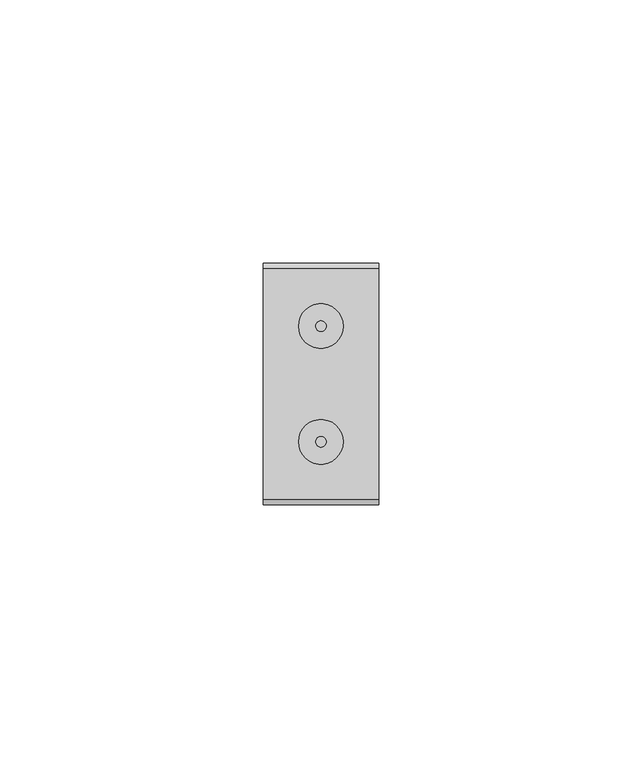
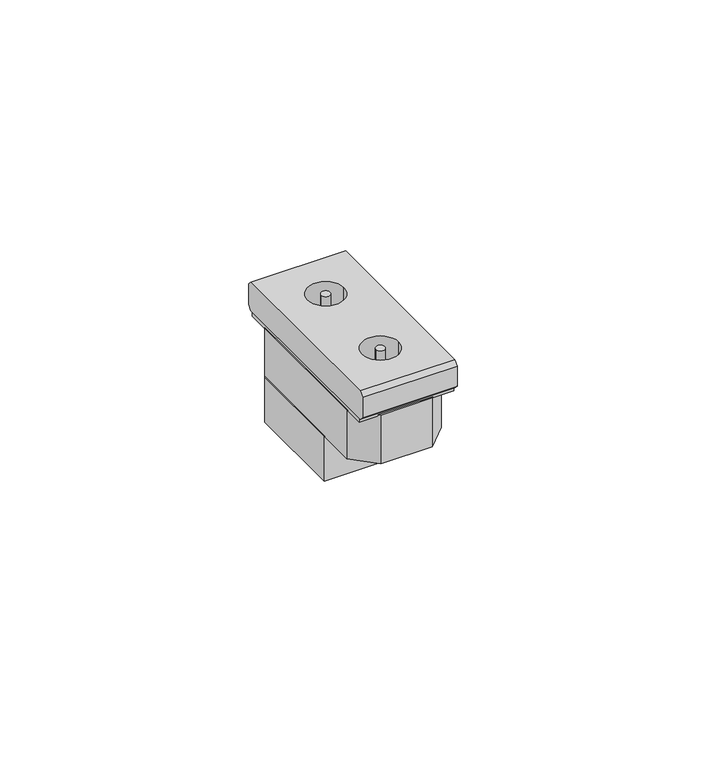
"""IFC4 building model written with IfcOpenShell, lengths in millimetres: proxy geometry, L4214D LL Presa TV-SAT : L4214D LL Presa TV-SAT."""

import ifcopenshell
import ifcopenshell.guid

model = None  # the IFC model being written
_history = None  # IfcOwnerHistory: only IFC2X3 demands one
_inside = {}  # id of a spatial element -> (the spatial element, [elements in it])
_under = {}  # id of a project, library or spatial element -> (it, [spatial elements below it])
_declared = {}  # id of a project -> (the project, [libraries it declares])
_typed = {}  # id of a type object -> (the type object, [elements of that type])
_made_of = {}  # id of a material, layer set ... -> (it, [elements and type objects made of it])


def new_model(schema):
    """Start an empty IFC model of exactly this schema.

    Asked for "IFC4X3", IfcOpenShell would pick the latest addendum, in which some entities
    have other attributes; the version numbers below select the first issue.
    IFC2X3 requires an IfcOwnerHistory on every rooted entity: one is made here for all.
    """
    global model, _history
    if schema == "IFC4X3":
        model = ifcopenshell.file(schema_version=(4, 3, 0, 0))
    else:
        model = ifcopenshell.file(schema=schema)
    _inside.clear()
    _under.clear()
    _declared.clear()
    _typed.clear()
    _made_of.clear()
    _history = None
    if model.schema == "IFC2X3":
        org = make("IfcOrganization", Name="unknown")
        user = make(
            "IfcPersonAndOrganization",
            ThePerson=make("IfcPerson", FamilyName="unknown"),
            TheOrganization=org,
        )
        app = make(
            "IfcApplication",
            ApplicationDeveloper=org,
            Version="unknown",
            ApplicationFullName="unknown",
            ApplicationIdentifier="unknown",
        )
        _history = make(
            "IfcOwnerHistory",
            OwningUser=user,
            OwningApplication=app,
            ChangeAction="ADDED",
            CreationDate=0,
        )
    return model


def make(cls, **values):
    """One entity of the class cls with the attributes given. An attribute that is None is left unset."""
    return model.create_entity(
        cls, **{name: value for name, value in values.items() if value is not None}
    )


def rooted(cls, **values):
    """An entity with a GlobalId (a new one), such as an element, a storey or a relation."""
    return make(cls, GlobalId=ifcopenshell.guid.new(), OwnerHistory=_history, **values)


def si_unit(unit_type, name, prefix=None):
    """IfcSIUnit, for example si_unit("LENGTHUNIT", "METRE", prefix="MILLI")."""
    return make("IfcSIUnit", UnitType=unit_type, Prefix=prefix, Name=name)


def assignment(units):
    """IfcUnitAssignment: the units of a project."""
    return None if units is None else make("IfcUnitAssignment", Units=units)


def point(xyz):
    """IfcCartesianPoint."""
    return None if xyz is None else make("IfcCartesianPoint", Coordinates=xyz)


def direction(xyz):
    """IfcDirection."""
    return None if xyz is None else make("IfcDirection", DirectionRatios=xyz)


def frame(location, z_axis=None, x_axis=None):
    """IfcAxis2Placement3D, a coordinate frame: its origin and axes. An axis left out is left unset."""
    return make(
        "IfcAxis2Placement3D",
        Location=point(location),
        Axis=direction(z_axis),
        RefDirection=direction(x_axis),
    )


def frame_2d(location, x_axis=None):
    """IfcAxis2Placement2D, a coordinate frame in the plane: its origin and x axis."""
    return make(
        "IfcAxis2Placement2D", Location=point(location), RefDirection=direction(x_axis)
    )


def origin():
    """The frame at (0, 0, 0) with its axes left unset."""
    return frame((0.0, 0.0, 0.0))


def origin_with_axes():
    """The frame at (0, 0, 0) with the z axis (0, 0, 1) and the x axis (1, 0, 0) written out."""
    return frame((0.0, 0.0, 0.0), z_axis=(0.0, 0.0, 1.0), x_axis=(1.0, 0.0, 0.0))


def place(relative_to, where):
    """IfcLocalPlacement: puts the frame where relative to a parent placement (None: the world)."""
    return make(
        "IfcLocalPlacement", PlacementRelTo=relative_to, RelativePlacement=where
    )


def context(
    kind, dimensions, precision=None, world=None, true_north=None, identifier=None
):
    """IfcGeometricRepresentationContext, for example the 3D "Model" context."""
    return make(
        "IfcGeometricRepresentationContext",
        ContextIdentifier=identifier,
        ContextType=kind,
        CoordinateSpaceDimension=dimensions,
        Precision=precision,
        WorldCoordinateSystem=world,
        TrueNorth=true_north,
    )


def project(units=None, contexts=None):
    """IfcProject with its units and contexts."""
    return rooted(
        "IfcProject",
        Name="project",
        RepresentationContexts=contexts,
        UnitsInContext=assignment(units),
    )


def spatial(cls, under=None, at=None, **own):
    """A site, building, storey or space (cls), placed at a placement, below another one or the project."""
    s = rooted(cls, ObjectPlacement=at, **own)
    if under is not None:
        _under.setdefault(under.id(), (under, []))[1].append(s)
    return s


def polyline(points):
    """IfcPolyline through the points."""
    return make("IfcPolyline", Points=[point(p) for p in points])


def circle_curve(where, radius):
    """IfcCircle in the frame where."""
    return make("IfcCircle", Position=where, Radius=radius)


def trimmed(basis, trim1, trim2, sense, master):
    """IfcTrimmedCurve: the piece of a basis curve between two trims."""
    return make(
        "IfcTrimmedCurve",
        BasisCurve=basis,
        Trim1=trim1,
        Trim2=trim2,
        SenseAgreement=sense,
        MasterRepresentation=master,
    )


def segment(curve, same_sense, transition):
    """IfcCompositeCurveSegment."""
    return make(
        "IfcCompositeCurveSegment",
        Transition=transition,
        SameSense=same_sense,
        ParentCurve=curve,
    )


def composite_curve(segments, self_intersect=None):
    """IfcCompositeCurve: segments joined end to end."""
    return make("IfcCompositeCurve", Segments=segments, SelfIntersect=self_intersect)


def outline(outer, holes=None, kind="AREA"):
    """IfcArbitraryClosedProfileDef: a profile drawn as a closed curve; with holes, ...WithVoids."""
    if holes is None:
        return make("IfcArbitraryClosedProfileDef", ProfileType=kind, OuterCurve=outer)
    return make(
        "IfcArbitraryProfileDefWithVoids",
        ProfileType=kind,
        OuterCurve=outer,
        InnerCurves=holes,
    )


def extrude(swept, where, along, depth):
    """IfcExtrudedAreaSolid: the profile swept, set in the frame where, extruded along a direction by depth."""
    return make(
        "IfcExtrudedAreaSolid",
        SweptArea=swept,
        Position=where,
        ExtrudedDirection=direction(along),
        Depth=depth,
    )


def shape(context_of_items, identifier, shape_type, items):
    """IfcShapeRepresentation: the items that make up one representation, for example the "Body"."""
    return make(
        "IfcShapeRepresentation",
        ContextOfItems=context_of_items,
        RepresentationIdentifier=identifier,
        RepresentationType=shape_type,
        Items=items,
    )


def source(mapping_origin, context_of_items, identifier, shape_type, items):
    """IfcRepresentationMap: a shape defined once, which mapped items show again and again."""
    return make(
        "IfcRepresentationMap",
        MappingOrigin=mapping_origin,
        MappedRepresentation=shape(context_of_items, identifier, shape_type, items),
    )


def transform(
    local_origin,
    x_axis=None,
    y_axis=None,
    z_axis=None,
    scale=None,
    scale2=None,
    scale3=None,
    uniform=True,
):
    """IfcCartesianTransformationOperator3D, or its non-uniform kind. x_axis, y_axis, z_axis: its Axis1, 2, 3."""
    if uniform:
        return make(
            "IfcCartesianTransformationOperator3D",
            Axis1=direction(x_axis),
            Axis2=direction(y_axis),
            LocalOrigin=point(local_origin),
            Scale=scale,
            Axis3=direction(z_axis),
        )
    return make(
        "IfcCartesianTransformationOperator3DnonUniform",
        Axis1=direction(x_axis),
        Axis2=direction(y_axis),
        LocalOrigin=point(local_origin),
        Scale=scale,
        Axis3=direction(z_axis),
        Scale2=scale2,
        Scale3=scale3,
    )


def mapped(mapping_source, mapping_target):
    """IfcMappedItem: shows the shape of a source again, moved by a transform."""
    return make(
        "IfcMappedItem", MappingSource=mapping_source, MappingTarget=mapping_target
    )


def made_of(thing, what):
    """Note that an element or type object is made of a material, layer set ...; save() writes the relation."""
    if what is not None:
        _made_of.setdefault(what.id(), (what, []))[1].append(thing)
    return thing


def element(
    cls,
    number,
    at=None,
    inside=None,
    cuts=None,
    type_object=None,
    material=None,
    context=None,
    identifier="Body",
    shape_type=None,
    held_by="IfcProductDefinitionShape",
    body=None,
    shapes=None,
    **own,
):
    """One element of the class cls, such as IfcWall. Its Tag is "e" and its number.

    at: its placement. inside: the storey or other place that contains it. cuts: it is an
    opening in that element (IfcRelVoidsElement). A single representation is given by context,
    identifier, shape_type and body (its items); several are given by shapes. held_by: the class
    of the entity that holds the representations. save() writes the other relations.
    """
    e = rooted(cls, Tag="e%d" % number, ObjectPlacement=at, **own)
    if body is not None:
        shapes = [shape(context, identifier, shape_type, body)]
    if shapes is not None:
        e.Representation = make(held_by, Representations=shapes)
    if inside is not None:
        _inside.setdefault(inside.id(), (inside, []))[1].append(e)
    if cuts is not None:
        rooted(
            "IfcRelVoidsElement", RelatingBuildingElement=cuts, RelatedOpeningElement=e
        )
    if type_object is not None:
        _typed.setdefault(type_object.id(), (type_object, []))[1].append(e)
    return made_of(e, material)


def aggregate(whole, parts):
    """IfcRelAggregates: a whole, such as a stair, and the parts it consists of."""
    return rooted("IfcRelAggregates", RelatingObject=whole, RelatedObjects=parts)


def save(model, path):
    """Write the relations noted so far, then the file.

    IfcRelAggregates (storeys below a building ...), IfcRelContainedInSpatialStructure (elements
    in a storey), IfcRelDefinesByType, IfcRelAssociatesMaterial and IfcRelDeclares: one each for
    every whole, place, type object, material and project.
    """
    for whole, parts in _under.values():
        aggregate(whole, parts)
    for where, things in _inside.values():
        rooted(
            "IfcRelContainedInSpatialStructure",
            RelatedElements=things,
            RelatingStructure=where,
        )
    for kind, things in _typed.values():
        rooted("IfcRelDefinesByType", RelatedObjects=things, RelatingType=kind)
    for what, things in _made_of.values():
        rooted("IfcRelAssociatesMaterial", RelatedObjects=things, RelatingMaterial=what)
    for by, libraries in _declared.values():
        rooted("IfcRelDeclares", RelatingContext=by, RelatedDefinitions=libraries)
    model.write(path)


def plane_surface(at):
    """IfcPlane: the flat surface through the origin of the frame at, square to its z axis."""
    return make("IfcPlane", Position=at)


def revolved_surface(curve, axis_point, axis_direction):
    """IfcSurfaceOfRevolution: the curve turned about the line through axis_point along axis_direction."""
    return make(
        "IfcSurfaceOfRevolution",
        SweptCurve=make("IfcArbitraryOpenProfileDef", ProfileType="CURVE", Curve=curve),
        AxisPosition=make("IfcAxis1Placement", Location=point(axis_point), Axis=direction(axis_direction)),
    )


def advanced_brep(points, edges, surfaces, faces):
    """IfcAdvancedBrep: a solid bounded by faces that lie on surfaces and meet in shared edges.

    An edge is (start, end): straight between two places in points (the first is 0);
    or (start, end, curve); or (start, end, curve, False) where it runs against its curve.
    A face is (place in surfaces, loops), or (place, loops, False) where it looks against
    its surface's normal. A loop lists edges by number (the first is 1), with a minus sign
    where the edge is run from its end to its start. The first loop is the outer one.
    """
    corners = [point(p) for p in points]
    vertices = [make("IfcVertexPoint", VertexGeometry=c) for c in corners]
    made = []
    for start, end, *more in edges:
        made.append(
            make(
                "IfcEdgeCurve",
                EdgeStart=vertices[start],
                EdgeEnd=vertices[end],
                EdgeGeometry=more[0] if more else make("IfcPolyline", Points=[corners[start], corners[end]]),
                SameSense=more[1] if len(more) > 1 else True,
            )
        )
    hull = []
    for where, loops, *sense in faces:
        bounds = []
        for j, loop in enumerate(loops):
            ring = [make("IfcOrientedEdge", EdgeElement=made[abs(k) - 1], Orientation=k > 0) for k in loop]
            bounds.append(
                make(
                    "IfcFaceOuterBound" if j == 0 else "IfcFaceBound",
                    Bound=make("IfcEdgeLoop", EdgeList=ring),
                    Orientation=True,
                )
            )
        hull.append(make("IfcAdvancedFace", Bounds=bounds, FaceSurface=surfaces[where], SameSense=sense[0] if sense else True))
    return make("IfcAdvancedBrep", Outer=make("IfcClosedShell", CfsFaces=hull))


def electrical_fixtures_3d832e5a(model_context):
    return source(origin(), model_context, "Body", "SolidModel", [
        extrude(outline(composite_curve([segment(trimmed(circle_curve(frame_2d((0.0, 11.0)), 1.0), [point((-1.0, 11.0))], [point((1.0, 11.0))], False, "CARTESIAN"), True, "CONTINUOUS"), segment(trimmed(circle_curve(frame_2d((0.0, 11.0)), 1.0), [point((1.0, 11.0))], [point((-1.0, 11.0))], False, "CARTESIAN"), True, "CONTINUOUS")], self_intersect=False)), frame((0.0, 0.0, 1.0), z_axis=(0.0, 0.0, 1.0), x_axis=(1.0, 0.0, 0.0)), (0.0, 0.0, 1.0), 6.979899),
        extrude(outline(composite_curve([segment(trimmed(circle_curve(frame_2d((0.0, -11.0)), 1.0), [point((-1.0, -11.0))], [point((1.0, -11.0))], False, "CARTESIAN"), True, "CONTINUOUS"), segment(trimmed(circle_curve(frame_2d((0.0, -11.0)), 1.0), [point((1.0, -11.0))], [point((-1.0, -11.0))], False, "CARTESIAN"), True, "CONTINUOUS")], self_intersect=False)), frame((0.0, 0.0, 1.0), z_axis=(0.0, 0.0, 1.0), x_axis=(1.0, 0.0, 0.0)), (0.0, 0.0, 1.0), 6.979899),
        advanced_brep(
        [(11.0, -22.0, 1.0), (11.0, 22.0, 1.0), (11.0, 22.9899495, 1.9899495), (11.0, 22.9899495, 6.9899495), (11.0, 22.0, 7.979899), (11.0, -22.0, 7.979899), (11.0, -22.9899495, 6.9899495), (11.0, -22.9899495, 1.9899495), (-11.0, -22.0, 1.0), (-11.0, -22.9899495, 1.9899495), (-11.0, -22.9899495, 6.9899495), (-11.0, -22.0, 7.979899), (-11.0, 22.0, 7.979899), (-11.0, 22.9899495, 6.9899495), (-11.0, 22.9899495, 1.9899495), (-11.0, 22.0, 1.0), (-4.25, 11.0, 1.0), (4.25, 11.0, 1.0), (-4.25, -11.0, 1.0), (4.25, -11.0, 1.0), (4.25, 11.0, 7.979899), (-4.25, 11.0, 7.979899), (4.25, -11.0, 7.979899), (-4.25, -11.0, 7.979899)],
        [
            (0, 1),
            (1, 2),
            (2, 3),
            (3, 4),
            (4, 5),
            (5, 6),
            (6, 7),
            (7, 0),
            (8, 9),
            (9, 10),
            (10, 11),
            (11, 12),
            (12, 13),
            (13, 14),
            (14, 15),
            (15, 8),
            (0, 8),
            (15, 1),
            (16, 17, circle_curve(frame((0.0, 11.0, 1.0), z_axis=(0.0, 0.0, 1.0), x_axis=(1.0, 0.0, 0.0)), 4.25)),
            (17, 16, circle_curve(frame((0.0, 11.0, 1.0), z_axis=(0.0, 0.0, 1.0), x_axis=(1.0, 0.0, 0.0)), 4.25)),
            (18, 19, circle_curve(frame((0.0, -11.0, 1.0), z_axis=(0.0, 0.0, 1.0), x_axis=(1.0, 0.0, 0.0)), 4.25)),
            (19, 18, circle_curve(frame((0.0, -11.0, 1.0), z_axis=(0.0, 0.0, 1.0), x_axis=(1.0, 0.0, 0.0)), 4.25)),
            (5, 11),
            (10, 6),
            (9, 7),
            (14, 2),
            (13, 3),
            (12, 4),
            (20, 21, circle_curve(frame((0.0, 11.0, 7.979899), z_axis=(0.0, 0.0, -1.0), x_axis=(1.0, 0.0, 0.0)), 4.25)),
            (21, 20, circle_curve(frame((0.0, 11.0, 7.979899), z_axis=(0.0, 0.0, -1.0), x_axis=(1.0, 0.0, 0.0)), 4.25)),
            (22, 23, circle_curve(frame((0.0, -11.0, 7.979899), z_axis=(0.0, 0.0, -1.0), x_axis=(1.0, 0.0, 0.0)), 4.25)),
            (23, 22, circle_curve(frame((0.0, -11.0, 7.979899), z_axis=(0.0, 0.0, -1.0), x_axis=(1.0, 0.0, 0.0)), 4.25)),
            (20, 17),
            (16, 21),
            (22, 19),
            (18, 23),
        ],
        [
            plane_surface(frame((11.0, 0.0, 1.0), z_axis=(1.0, 0.0, 0.0), x_axis=(0.0, 1.0, 0.0))),
            plane_surface(frame((-11.0, 0.0, 1.0), z_axis=(-1.0, 0.0, 0.0), x_axis=(0.0, -1.0, 0.0))),
            plane_surface(frame((11.0, -22.0, 1.0), z_axis=(0.0, 0.0, -1.0), x_axis=(-1.0, 0.0, 0.0))),
            plane_surface(frame((11.0, -22.0, 7.979899), z_axis=(0.0, -0.7071067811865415, 0.7071067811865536), x_axis=(-1.0, 0.0, 0.0))),
            plane_surface(frame((11.0, -22.9899495, 6.9899495), z_axis=(0.0, -1.0, 0.0), x_axis=(-1.0, 0.0, 0.0))),
            plane_surface(frame((11.0, -22.9899495, 1.9899495), z_axis=(0.0, -0.707106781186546, -0.707106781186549), x_axis=(-1.0, 0.0, 0.0))),
            plane_surface(frame((11.0, 22.0, 1.0), z_axis=(0.0, 0.7071067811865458, -0.7071067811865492), x_axis=(-1.0, 0.0, 0.0))),
            plane_surface(frame((11.0, 22.9899495, 1.9899495), z_axis=(0.0, 1.0, 0.0), x_axis=(-1.0, 0.0, 0.0))),
            plane_surface(frame((11.0, 22.9899495, 6.9899495), z_axis=(0.0, 0.7071067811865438, 0.7071067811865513), x_axis=(-1.0, 0.0, 0.0))),
            plane_surface(frame((11.0, 22.0, 7.979899), z_axis=(0.0, 0.0, 1.0), x_axis=(-1.0, 0.0, 0.0))),
            revolved_surface(polyline([(4.25, 11.0, 7.979899), (4.25, 11.0, 1.0)]), (0.0, 11.0, 1.0), (0.0, 0.0, 1.0)),
            revolved_surface(polyline([(4.25, -11.0, 7.979899), (4.25, -11.0, 1.0)]), (0.0, -11.0, 0.0), (0.0, 0.0, 1.0)),
        ],
        [
            (0, [[1, 2, 3, 4, 5, 6, 7, 8]]),
            (1, [[9, 10, 11, 12, 13, 14, 15, 16]]),
            (2, [[-1, 17, -16, 18], [19, 20], [21, 22]]),
            (3, [[-6, 23, -11, 24]]),
            (4, [[-7, -24, -10, 25]]),
            (5, [[-8, -25, -9, -17]]),
            (6, [[-2, -18, -15, 26]]),
            (7, [[-3, -26, -14, 27]]),
            (8, [[-4, -27, -13, 28]]),
            (9, [[-5, -28, -12, -23], [29, 30], [31, 32]]),
            (10, [[33, -19, 34, -29]]),
            (10, [[-33, -30, -34, -20]]),
            (11, [[35, -21, 36, -31]]),
            (11, [[-35, -32, -36, -22]]),
        ],
    ),
        extrude(outline(polyline([(-11.0, -7.5), (-11.0, 16.5), (-9.0, 18.5), (9.0, 18.5), (11.0, 16.5), (11.0, -7.5), (-11.0, -7.5)])), frame((0.0, 0.0, -23.0), z_axis=(0.0, 0.0, 1.0), x_axis=(1.0, 0.0, 0.0)), (0.0, 0.0, 1.0), 11.0),
        extrude(outline(polyline([(11.0, -16.5), (6.0, -21.5), (-6.0, -21.5), (-11.0, -16.5), (-11.0, 16.5), (-6.0, 21.5), (6.0, 21.5), (11.0, 16.5), (11.0, -16.5)])), frame((0.0, 0.0, -12.0), z_axis=(0.0, 0.0, 1.0), x_axis=(1.0, 0.0, 0.0)), (0.0, 0.0, 1.0), 12.0),
        extrude(outline(polyline([(11.0, -21.5), (-11.0, -21.5), (-11.0, 21.5), (11.0, 21.5), (11.0, -21.5)])), origin_with_axes(), (0.0, 0.0, 1.0), 1.0),
    ])


if __name__ == "__main__":
    model = new_model("IFC4")
    model_context = context("Model", 3, world=origin())
    ifc_project = project(units=[si_unit("LENGTHUNIT", "METRE", prefix="MILLI")], contexts=[model_context])
    site = spatial("IfcSite", under=ifc_project)
    building = spatial("IfcBuilding", under=site)
    placement = place(None, origin())
    electrical_fixtures_shape = electrical_fixtures_3d832e5a(model_context)
    element("IfcBuildingElementProxy", 1, Name="L4214D LL Presa TV-SAT : L4214D LL Presa TV-SAT", ObjectType="L4214D LL Presa TV-SAT : L4214D LL Presa TV-SAT", at=placement, inside=building, context=model_context, shape_type="MappedRepresentation", body=[
        mapped(electrical_fixtures_shape, transform((0.0, 0.0, 0.0), x_axis=(1.0, 0.0, 0.0), y_axis=(0.0, 1.0, 0.0), z_axis=(0.0, 0.0, 1.0))),
    ])
    save(model, "model.ifc")
